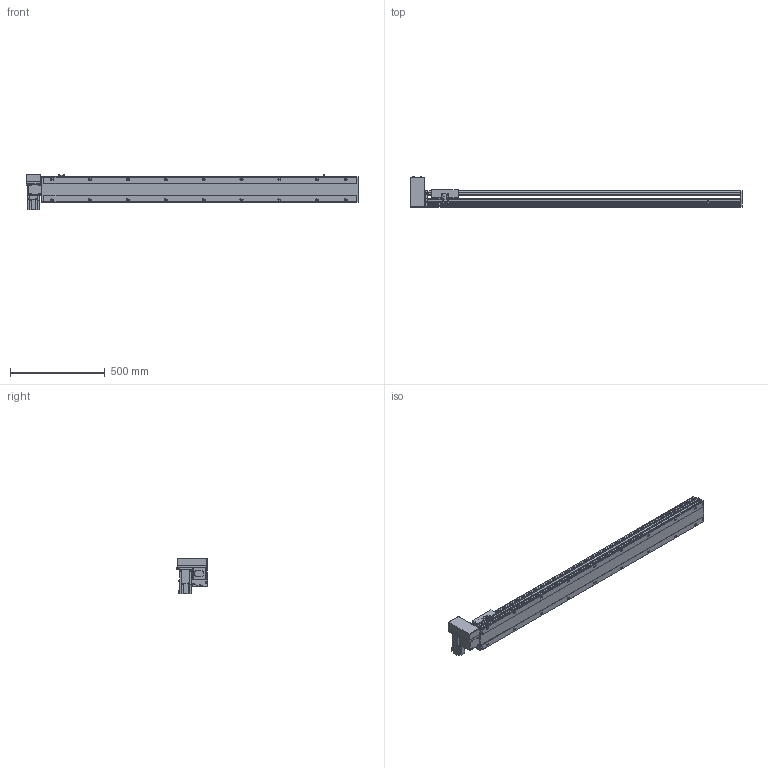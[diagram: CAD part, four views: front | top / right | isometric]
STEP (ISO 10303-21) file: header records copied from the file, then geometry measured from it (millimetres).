
FILE_DESCRIPTION( ( 'STEP AP214' ), '1' );
FILE_NAME( 'x:/temp/worker_6/temp/exporttempdir_5396_218_go3dc/format_0/PBS140S-P40-S1400-RU-T40-C1-N(0).stp', '2022-06-09T00:55:26', ( 'License CC BY-ND 4.0' ), ( 'CADENAS' ), ' ', 'PARTsolutions', ' ' );
FILE_SCHEMA( ( 'AUTOMOTIVE_DESIGN { 1 0 10303 214 1 1 1 1 }' ) );
Length unit declared in the file: millimetre
Products named in the file (7): PBS140S-P40-S1400-RU-T40-C1-N(0); _PBS140S-S1400()_body; _PBS140ST-RU_motors; _T40-p1; _PBS140S_sliser; _PBS140S_plant; _PBS140S_sensor
Assembly tree (8 placements, depth 2):
  PBS140S-P40-S1400-RU-T40-C1-N(0)
    _PBS140S-S1400()_body
    _PBS140ST-RU_motors
    _T40-p1
    _PBS140S_sliser
    _PBS140S_plant
    _PBS140S_sensor  x3
Bounding box: 1754 x 162.5 x 189.7 mm (x, y, z)
Volume: 8861379.9 mm3; surface area: 1516985.5 mm2
Topology: 8 solids, 8 shells, 1115 faces, 2951 edges, 1931 vertices
Faces by surface type: plane 708, cylinder 353, cone 44, sphere 8, torus 2
Full cylindrical faces by diameter (mm): 3.242 x4, 4 x2, 4.134 x4, 4.4 x8, 4.5 x2, 4.8 x4, 4.917 x26, 5.5 x7, 6 x2, 7 x20, 7.5 x8, 8 x12, 8.5 x4, 10.5 x18, 14 x1, 30 x2, 50 x2
Entity records: 40978 total; most frequent: CARTESIAN_POINT 6574, DIRECTION 5418, ORIENTED_EDGE 5122, EDGE_CURVE 2561, AXIS2_PLACEMENT_3D 1889, VERTEX_POINT 1777, LINE 1640, VECTOR 1640
